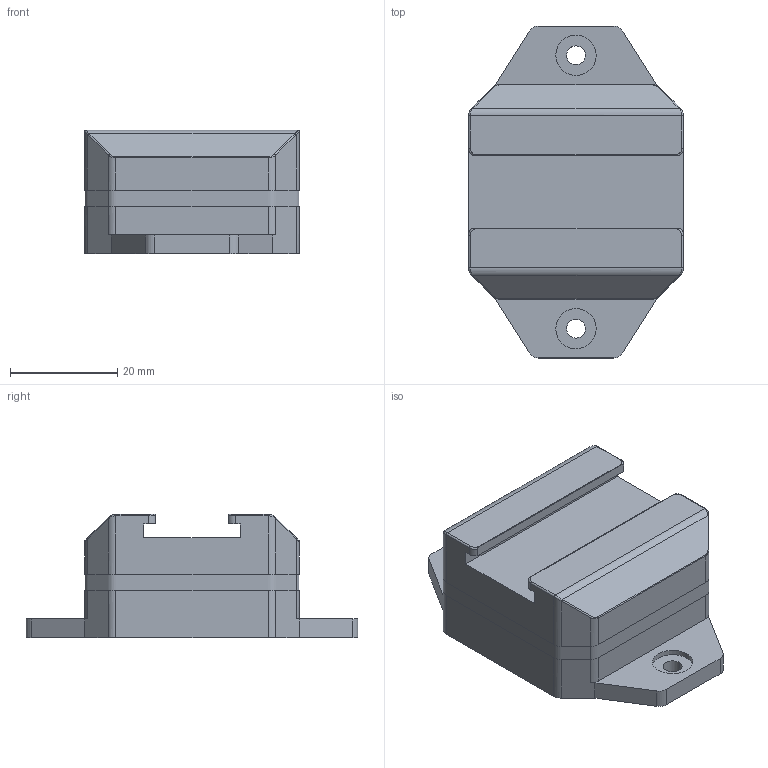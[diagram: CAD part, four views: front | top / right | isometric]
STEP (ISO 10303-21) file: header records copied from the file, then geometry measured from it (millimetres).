
FILE_DESCRIPTION(/* description */ (''),/* implementation_level */ '2;1');
FILE_NAME(/* name */ '壁挂件',/* time_stamp */ '2023-02-14T16:49:57+08:00',/* author */ (''),/* organization */ (''),/* preprocessor_version */ 'ST-DEVELOPER v16.5',/* originating_system */ '',/* authorisation */ '');
FILE_SCHEMA (('CONFIG_CONTROL_DESIGN'));
Length unit declared in the file: millimetre
Products named in the file (1): Document
Bounding box: 40 x 61.84 x 23 mm (x, y, z)
Volume: 13690 mm3; surface area: 12568.1 mm2
Topology: 1 solids, 1 shells, 136 faces, 330 edges, 200 vertices
Faces by surface type: plane 74, cylinder 48, bspline 14
Entity records: 3938 total; most frequent: CARTESIAN_POINT 1664, ORIENTED_EDGE 660, EDGE_CURVE 330, B_SPLINE_CURVE_WITH_KNOTS 200, VERTEX_POINT 200, EDGE_LOOP 144, ADVANCED_FACE 136, FACE_OUTER_BOUND 136
